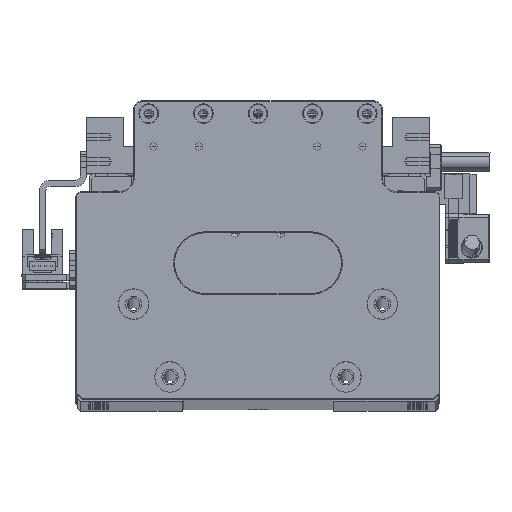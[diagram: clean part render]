
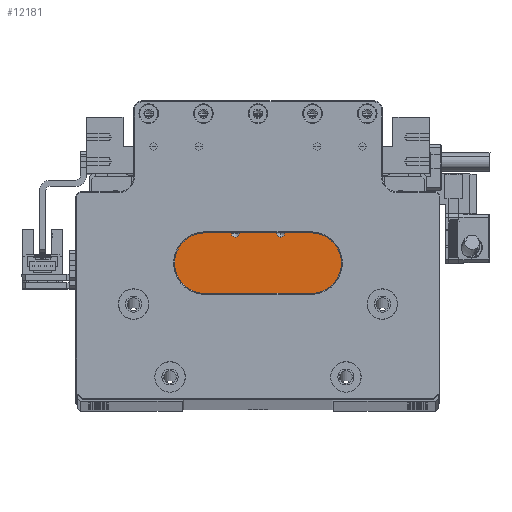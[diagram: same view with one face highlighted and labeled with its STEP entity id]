
A CAD part, top view. The second image highlights one B-rep face of the part: STEP entity #12181.
In plain terms, the highlighted planar face has unit normal (0, 0, 1).
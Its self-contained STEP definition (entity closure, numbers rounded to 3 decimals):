
#1266 = CARTESIAN_POINT ( 'NONE',  ( -34.432, -49.223, 375. ) ) ;
#1659 = ORIENTED_EDGE ( 'NONE', *, *, #85304, .T. ) ;
#1783 = DIRECTION ( 'NONE',  ( -1., 0., 0. ) ) ;
#2287 = DIRECTION ( 'NONE',  ( 0., 1., 0. ) ) ;
#5126 = VECTOR ( 'NONE', #85391, 1000. ) ;
#7589 = ORIENTED_EDGE ( 'NONE', *, *, #121251, .T. ) ;
#8078 = FACE_BOUND ( 'NONE', #106461, .T. ) ;
#8907 = CARTESIAN_POINT ( 'NONE',  ( -23.132, -9.223, 375. ) ) ;
#9658 = EDGE_CURVE ( 'NONE', #57148, #31694, #84240, .T. ) ;
#9666 = DIRECTION ( 'NONE',  ( 1., 0., 0. ) ) ;
#10313 = ORIENTED_EDGE ( 'NONE', *, *, #114880, .T. ) ;
#10776 = DIRECTION ( 'NONE',  ( -1., 0., 0. ) ) ;
#12181 = ADVANCED_FACE ( 'NONE', ( #61616, #8078, #58388 ), #86646, .T. ) ;
#12412 = CARTESIAN_POINT ( 'NONE',  ( 13.868, -9.023, 375. ) ) ;
#15787 = CARTESIAN_POINT ( 'NONE',  ( -34.632, -49.223, 375. ) ) ;
#17919 = ORIENTED_EDGE ( 'NONE', *, *, #83328, .T. ) ;
#21957 = CARTESIAN_POINT ( 'NONE',  ( -4.632, -9.223, 375. ) ) ;
#22221 = EDGE_CURVE ( 'NONE', #65996, #75586, #112954, .T. ) ;
#23664 = VERTEX_POINT ( 'NONE', #67447 ) ;
#24069 = CARTESIAN_POINT ( 'NONE',  ( 13.868, -17.023, 375. ) ) ;
#25627 = VERTEX_POINT ( 'NONE', #118678 ) ;
#26627 = CARTESIAN_POINT ( 'NONE',  ( -12.132, -17.023, 375. ) ) ;
#28114 = DIRECTION ( 'NONE',  ( -1., 0., 0. ) ) ;
#28787 = ORIENTED_EDGE ( 'NONE', *, *, #9658, .T. ) ;
#29435 = VECTOR ( 'NONE', #2287, 1000. ) ;
#30178 = CARTESIAN_POINT ( 'NONE',  ( 2.868, -17.023, 375. ) ) ;
#31694 = VERTEX_POINT ( 'NONE', #92514 ) ;
#33828 = VECTOR ( 'NONE', #86210, 1000. ) ;
#34605 = ORIENTED_EDGE ( 'NONE', *, *, #69238, .T. ) ;
#36747 = DIRECTION ( 'NONE',  ( 1., 0., 0. ) ) ;
#36939 = CARTESIAN_POINT ( 'NONE',  ( -34.432, -9.023, 375. ) ) ;
#38036 = LINE ( 'NONE', #100961, #115234 ) ;
#38546 = CIRCLE ( 'NONE', #117376, 1.25 ) ;
#38610 = VECTOR ( 'NONE', #1783, 1000. ) ;
#40302 = DIRECTION ( 'NONE',  ( 1., 0., 0. ) ) ;
#41511 = VERTEX_POINT ( 'NONE', #8907 ) ;
#41823 = LINE ( 'NONE', #21957, #38610 ) ;
#41992 = DIRECTION ( 'NONE',  ( 0., 0., -1. ) ) ;
#42721 = CARTESIAN_POINT ( 'NONE',  ( -23.132, -9.023, 375. ) ) ;
#43371 = EDGE_CURVE ( 'NONE', #31694, #23664, #78643, .T. ) ;
#47112 = EDGE_CURVE ( 'NONE', #103649, #74625, #112523, .T. ) ;
#50740 = AXIS2_PLACEMENT_3D ( 'NONE', #130156, #69895, #9666 ) ;
#52823 = CARTESIAN_POINT ( 'NONE',  ( 25.168, -9.023, 375. ) ) ;
#53258 = CARTESIAN_POINT ( 'NONE',  ( -13.382, -17.023, 375. ) ) ;
#57003 = EDGE_CURVE ( 'NONE', #70254, #25627, #90976, .T. ) ;
#57148 = VERTEX_POINT ( 'NONE', #1266 ) ;
#57471 = EDGE_CURVE ( 'NONE', #74396, #100316, #123835, .T. ) ;
#57902 = DIRECTION ( 'NONE',  ( 0., 0., 1. ) ) ;
#58388 = FACE_BOUND ( 'NONE', #109828, .T. ) ;
#58913 = VECTOR ( 'NONE', #28114, 1000. ) ;
#61616 = FACE_OUTER_BOUND ( 'NONE', #106910, .T. ) ;
#62778 = CIRCLE ( 'NONE', #82743, 1.25 ) ;
#64790 = CARTESIAN_POINT ( 'NONE',  ( -10.882, -17.023, 375. ) ) ;
#65996 = VERTEX_POINT ( 'NONE', #24069 ) ;
#67447 = CARTESIAN_POINT ( 'NONE',  ( 25.168, -17.023, 375. ) ) ;
#69238 = EDGE_CURVE ( 'NONE', #100316, #74396, #38546, .T. ) ;
#69895 = DIRECTION ( 'NONE',  ( 0., 0., -1. ) ) ;
#70254 = VERTEX_POINT ( 'NONE', #95930 ) ;
#72899 = ORIENTED_EDGE ( 'NONE', *, *, #57471, .T. ) ;
#73460 = ORIENTED_EDGE ( 'NONE', *, *, #47112, .T. ) ;
#73766 = VECTOR ( 'NONE', #83247, 1000. ) ;
#74298 = CARTESIAN_POINT ( 'NONE',  ( -23.132, -17.023, 375. ) ) ;
#74396 = VERTEX_POINT ( 'NONE', #53258 ) ;
#74625 = VERTEX_POINT ( 'NONE', #117422 ) ;
#75586 = VERTEX_POINT ( 'NONE', #105356 ) ;
#78643 = LINE ( 'NONE', #52823, #108558 ) ;
#79001 = AXIS2_PLACEMENT_3D ( 'NONE', #97996, #57902, #128278 ) ;
#82743 = AXIS2_PLACEMENT_3D ( 'NONE', #30178, #100632, #40302 ) ;
#83247 = DIRECTION ( 'NONE',  ( 0., -1., 0. ) ) ;
#83328 = EDGE_CURVE ( 'NONE', #41511, #103649, #127215, .T. ) ;
#84240 = LINE ( 'NONE', #15787, #33828 ) ;
#85304 = EDGE_CURVE ( 'NONE', #75586, #41511, #41823, .T. ) ;
#85391 = DIRECTION ( 'NONE',  ( 0., -1., 0. ) ) ;
#86210 = DIRECTION ( 'NONE',  ( 1., 0., 0. ) ) ;
#86646 = PLANE ( 'NONE',  #79001 ) ;
#87212 = ORIENTED_EDGE ( 'NONE', *, *, #43371, .T. ) ;
#87429 = EDGE_CURVE ( 'NONE', #74625, #57148, #108972, .T. ) ;
#90976 = CIRCLE ( 'NONE', #50740, 1.25 ) ;
#92514 = CARTESIAN_POINT ( 'NONE',  ( 25.168, -49.223, 375. ) ) ;
#94396 = ORIENTED_EDGE ( 'NONE', *, *, #87429, .T. ) ;
#95930 = CARTESIAN_POINT ( 'NONE',  ( 1.618, -17.023, 375. ) ) ;
#96367 = ORIENTED_EDGE ( 'NONE', *, *, #57003, .T. ) ;
#96403 = CARTESIAN_POINT ( 'NONE',  ( -4.632, -17.023, 375. ) ) ;
#97093 = DIRECTION ( 'NONE',  ( 0., 0., -1. ) ) ;
#97996 = CARTESIAN_POINT ( 'NONE',  ( -4.632, -9.023, 375. ) ) ;
#100316 = VERTEX_POINT ( 'NONE', #64790 ) ;
#100426 = ORIENTED_EDGE ( 'NONE', *, *, #22221, .T. ) ;
#100632 = DIRECTION ( 'NONE',  ( 0., 0., -1. ) ) ;
#100961 = CARTESIAN_POINT ( 'NONE',  ( -4.632, -17.023, 375. ) ) ;
#102309 = CARTESIAN_POINT ( 'NONE',  ( -12.132, -17.023, 375. ) ) ;
#103649 = VERTEX_POINT ( 'NONE', #74298 ) ;
#105356 = CARTESIAN_POINT ( 'NONE',  ( 13.868, -9.223, 375. ) ) ;
#106461 = EDGE_LOOP ( 'NONE', ( #7589, #96367 ) ) ;
#106910 = EDGE_LOOP ( 'NONE', ( #1659, #17919, #73460, #94396, #28787, #87212, #10313, #100426 ) ) ;
#108558 = VECTOR ( 'NONE', #113119, 1000. ) ;
#108972 = LINE ( 'NONE', #36939, #5126 ) ;
#109828 = EDGE_LOOP ( 'NONE', ( #34605, #72899 ) ) ;
#112404 = DIRECTION ( 'NONE',  ( 1., 0., 0. ) ) ;
#112523 = LINE ( 'NONE', #96403, #58913 ) ;
#112954 = LINE ( 'NONE', #12412, #29435 ) ;
#113119 = DIRECTION ( 'NONE',  ( 0., 1., 0. ) ) ;
#114880 = EDGE_CURVE ( 'NONE', #23664, #65996, #38036, .T. ) ;
#115234 = VECTOR ( 'NONE', #10776, 1000. ) ;
#117376 = AXIS2_PLACEMENT_3D ( 'NONE', #102309, #41992, #112404 ) ;
#117422 = CARTESIAN_POINT ( 'NONE',  ( -34.432, -17.023, 375. ) ) ;
#118678 = CARTESIAN_POINT ( 'NONE',  ( 4.118, -17.023, 375. ) ) ;
#121251 = EDGE_CURVE ( 'NONE', #25627, #70254, #62778, .T. ) ;
#122422 = AXIS2_PLACEMENT_3D ( 'NONE', #26627, #97093, #36747 ) ;
#123835 = CIRCLE ( 'NONE', #122422, 1.25 ) ;
#127215 = LINE ( 'NONE', #42721, #73766 ) ;
#128278 = DIRECTION ( 'NONE',  ( 1., 0., 0. ) ) ;
#130156 = CARTESIAN_POINT ( 'NONE',  ( 2.868, -17.023, 375. ) ) ;
